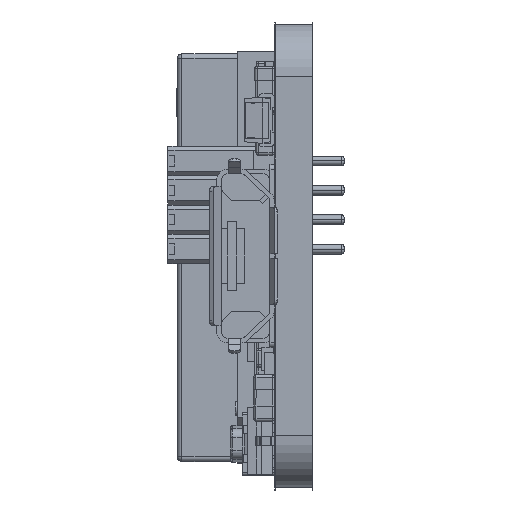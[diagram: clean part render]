
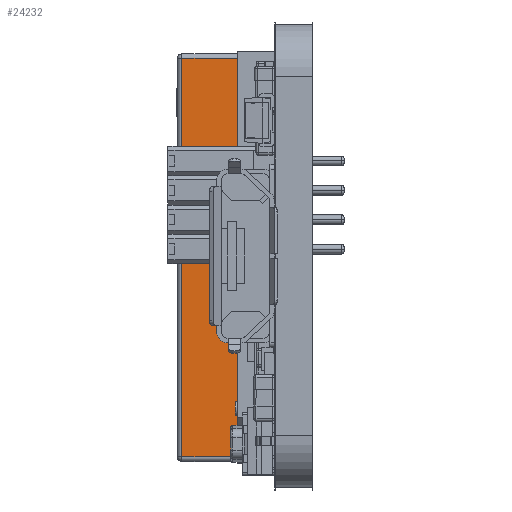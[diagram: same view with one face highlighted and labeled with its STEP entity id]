
A CAD part, left-side view. The second image highlights one B-rep face of the part: STEP entity #24232.
In plain terms, the highlighted planar face has unit normal (-1, 0, 0).
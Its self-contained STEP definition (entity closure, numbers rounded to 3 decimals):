
#24232 = ADVANCED_FACE ( 'NONE', ( #209476 ), #204615, .F. ) ;
#30826 = EDGE_CURVE ( 'NONE', #233688, #233690, #201834, .T. ) ;
#30829 = EDGE_CURVE ( 'NONE', #233690, #233557, #201838, .T. ) ;
#30833 = EDGE_CURVE ( 'NONE', #233556, #233688, #201842, .T. ) ;
#37427 = ORIENTED_EDGE ( 'NONE', *, *, #30826, .T. ) ;
#37429 = ORIENTED_EDGE ( 'NONE', *, *, #30829, .T. ) ;
#37432 = ORIENTED_EDGE ( 'NONE', *, *, #235426, .T. ) ;
#37435 = ORIENTED_EDGE ( 'NONE', *, *, #30833, .T. ) ;
#49627 = CARTESIAN_POINT ( 'NONE',  ( -5.55, 1.6, 8.6 ) ) ;
#49631 = CARTESIAN_POINT ( 'NONE',  ( -5.55, 1.6, -8.6 ) ) ;
#50002 = CARTESIAN_POINT ( 'NONE',  ( -5.55, 4., 8.6 ) ) ;
#50006 = CARTESIAN_POINT ( 'NONE',  ( -5.55, 4., -8.6 ) ) ;
#74228 = LINE ( 'NONE', #83137, #74232 ) ;
#74232 = VECTOR ( 'NONE', #83139, 1000. ) ;
#83137 = CARTESIAN_POINT ( 'NONE',  ( -5.55, 1.6, -8.8 ) ) ;
#83139 = DIRECTION ( 'NONE',  ( 0., 0., 1. ) ) ;
#85010 = EDGE_LOOP ( 'NONE', ( #37427, #37429, #37432, #37435 ) ) ;
#188986 = AXIS2_PLACEMENT_3D ( 'NONE', #204618, #204620, #204623 ) ;
#201834 = LINE ( 'NONE', #204483, #201836 ) ;
#201836 = VECTOR ( 'NONE', #204485, 1000. ) ;
#201838 = LINE ( 'NONE', #204488, #201840 ) ;
#201840 = VECTOR ( 'NONE', #204490, 1000. ) ;
#201842 = LINE ( 'NONE', #204493, #201844 ) ;
#201844 = VECTOR ( 'NONE', #204495, 1000. ) ;
#204483 = CARTESIAN_POINT ( 'NONE',  ( -5.55, 4., -8.8 ) ) ;
#204485 = DIRECTION ( 'NONE',  ( 0., 0., -1. ) ) ;
#204488 = CARTESIAN_POINT ( 'NONE',  ( -5.55, 4.2, -8.6 ) ) ;
#204490 = DIRECTION ( 'NONE',  ( 0., -1., 0. ) ) ;
#204493 = CARTESIAN_POINT ( 'NONE',  ( -5.55, 4.2, 8.6 ) ) ;
#204495 = DIRECTION ( 'NONE',  ( 0., 1., 0. ) ) ;
#204615 = PLANE ( 'NONE',  #188986 ) ;
#204618 = CARTESIAN_POINT ( 'NONE',  ( -5.55, 4.2, -8.8 ) ) ;
#204620 = DIRECTION ( 'NONE',  ( 1., 0., 0. ) ) ;
#204623 = DIRECTION ( 'NONE',  ( 0., 0., -1. ) ) ;
#209476 = FACE_OUTER_BOUND ( 'NONE', #85010, .T. ) ;
#233556 = VERTEX_POINT ( 'NONE', #49627 ) ;
#233557 = VERTEX_POINT ( 'NONE', #49631 ) ;
#233688 = VERTEX_POINT ( 'NONE', #50002 ) ;
#233690 = VERTEX_POINT ( 'NONE', #50006 ) ;
#235426 = EDGE_CURVE ( 'NONE', #233557, #233556, #74228, .T. ) ;
